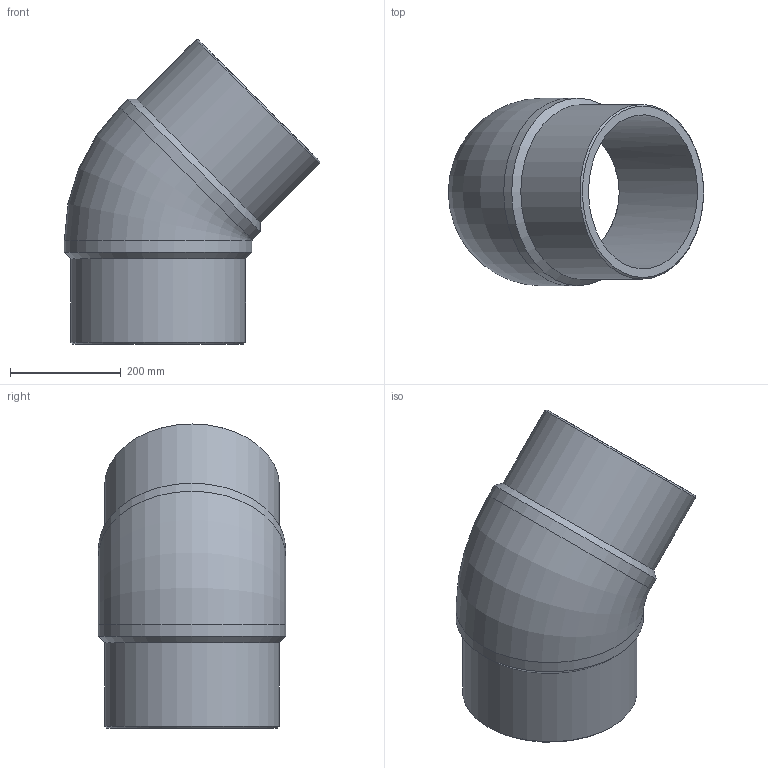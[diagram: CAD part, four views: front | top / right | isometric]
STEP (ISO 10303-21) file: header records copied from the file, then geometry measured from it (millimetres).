
FILE_DESCRIPTION(/* description */ ('Unknown'),/* implementation_level */ '2;1');
FILE_NAME(/* name */ 'G4P315B',/* time_stamp */ '2022-01-17T12:13:30+01:00',/* author */ ('Unknown'),/* organization */ ('Unknown'),/* preprocessor_version */ 'ST-DEVELOPER v18.1',/* originating_system */ 'Solid Edge',/* authorisation */ 'Unknown');
FILE_SCHEMA (('AUTOMOTIVE_DESIGN {1 0 10303 214 3 1 1}'));
Length unit declared in the file: millimetre
Products named in the file (1): G4P315B
Bounding box: 459.97 x 338 x 547.97 mm (x, y, z)
Volume: 11044606.1 mm3; surface area: 998085.8 mm2
Topology: 1 solids, 1 shells, 14 faces, 34 edges, 22 vertices
Faces by surface type: cylinder 6, cone 4, plane 2, torus 2
Full cylindrical faces by diameter (mm): 277.6 x2, 315 x2, 338 x2
Entity records: 368 total; most frequent: CARTESIAN_POINT 68, DIRECTION 60, ORIENTED_EDGE 38, AXIS2_PLACEMENT_3D 30, EDGE_LOOP 27, FACE_BOUND 27, EDGE_CURVE 19, VERTEX_POINT 18
